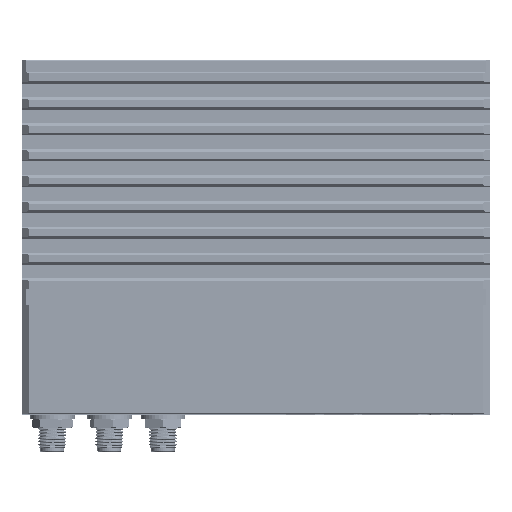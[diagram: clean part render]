
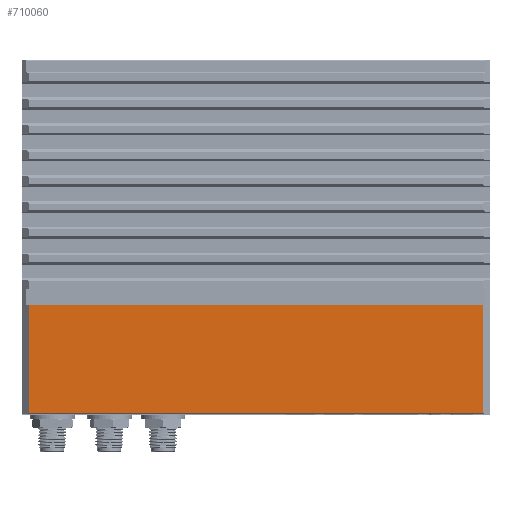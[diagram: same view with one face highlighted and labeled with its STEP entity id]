
A CAD part, top view. The second image highlights one B-rep face of the part: STEP entity #710060.
In plain terms, the highlighted planar face has unit normal (0, 0, 1).
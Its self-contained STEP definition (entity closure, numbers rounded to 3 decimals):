
#27959 = CARTESIAN_POINT ( 'NONE',  ( 97.367, 106.748, 167.486 ) ) ;
#46764 = CARTESIAN_POINT ( 'NONE',  ( -4.633, 82.398, 167.486 ) ) ;
#78255 = VERTEX_POINT ( 'NONE', #172367 ) ;
#85996 = ORIENTED_EDGE ( 'NONE', *, *, #616904, .T. ) ;
#104908 = VECTOR ( 'NONE', #252374, 1000. ) ;
#129999 = CARTESIAN_POINT ( 'NONE',  ( 97.367, 82.398, 167.486 ) ) ;
#172367 = CARTESIAN_POINT ( 'NONE',  ( 97.367, 82.398, 167.486 ) ) ;
#204226 = FACE_OUTER_BOUND ( 'NONE', #718945, .T. ) ;
#211651 = DIRECTION ( 'NONE',  ( 0., 0., 1. ) ) ;
#218563 = LINE ( 'NONE', #677396, #577033 ) ;
#228536 = CARTESIAN_POINT ( 'NONE',  ( -4.633, 106.748, 167.486 ) ) ;
#252374 = DIRECTION ( 'NONE',  ( -1., 0., 0. ) ) ;
#271707 = CARTESIAN_POINT ( 'NONE',  ( -3.883, 121.148, 167.486 ) ) ;
#320978 = VECTOR ( 'NONE', #499070, 1000. ) ;
#362234 = PLANE ( 'NONE',  #403837 ) ;
#395181 = DIRECTION ( 'NONE',  ( 0., -1., 0. ) ) ;
#403837 = AXIS2_PLACEMENT_3D ( 'NONE', #271707, #211651, #723114 ) ;
#407048 = VECTOR ( 'NONE', #712658, 1000. ) ;
#481447 = EDGE_CURVE ( 'NONE', #78255, #656963, #555380, .T. ) ;
#499070 = DIRECTION ( 'NONE',  ( 0., 1., 0. ) ) ;
#533139 = ORIENTED_EDGE ( 'NONE', *, *, #705170, .T. ) ;
#539574 = LINE ( 'NONE', #129999, #407048 ) ;
#549937 = VERTEX_POINT ( 'NONE', #228536 ) ;
#555380 = LINE ( 'NONE', #615603, #320978 ) ;
#577033 = VECTOR ( 'NONE', #395181, 1000. ) ;
#595387 = EDGE_CURVE ( 'NONE', #549937, #731781, #218563, .T. ) ;
#615603 = CARTESIAN_POINT ( 'NONE',  ( 97.367, 121.148, 167.486 ) ) ;
#616904 = EDGE_CURVE ( 'NONE', #731781, #78255, #539574, .T. ) ;
#651072 = LINE ( 'NONE', #714985, #104908 ) ;
#655344 = ORIENTED_EDGE ( 'NONE', *, *, #595387, .T. ) ;
#656963 = VERTEX_POINT ( 'NONE', #27959 ) ;
#677396 = CARTESIAN_POINT ( 'NONE',  ( -4.633, 121.148, 167.486 ) ) ;
#705170 = EDGE_CURVE ( 'NONE', #656963, #549937, #651072, .T. ) ;
#708143 = ORIENTED_EDGE ( 'NONE', *, *, #481447, .T. ) ;
#710060 = ADVANCED_FACE ( 'NONE', ( #204226 ), #362234, .T. ) ;
#712658 = DIRECTION ( 'NONE',  ( 1., 0., 0. ) ) ;
#714985 = CARTESIAN_POINT ( 'NONE',  ( 96.617, 106.748, 167.486 ) ) ;
#718945 = EDGE_LOOP ( 'NONE', ( #655344, #85996, #708143, #533139 ) ) ;
#723114 = DIRECTION ( 'NONE',  ( 0., -1., 0. ) ) ;
#731781 = VERTEX_POINT ( 'NONE', #46764 ) ;
